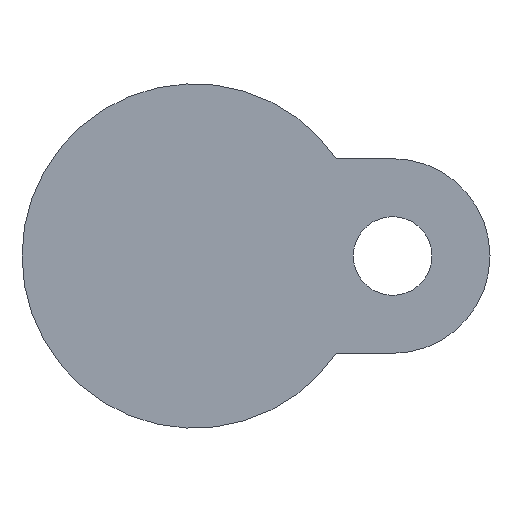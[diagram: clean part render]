
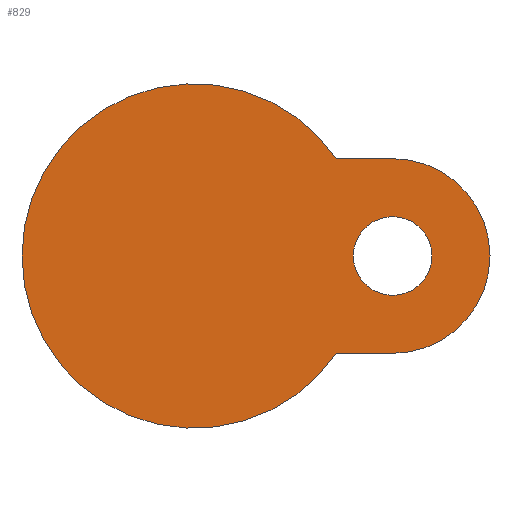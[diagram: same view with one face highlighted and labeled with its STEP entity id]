
A CAD part, front view. The second image highlights one B-rep face of the part: STEP entity #829.
In plain terms, the highlighted planar face has unit normal (0, -1, 0).
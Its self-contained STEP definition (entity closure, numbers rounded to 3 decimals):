
#7 = CARTESIAN_POINT ( 'NONE',  ( 31.75, -16., 0. ) ) ;
#26 = AXIS2_PLACEMENT_3D ( 'NONE', #625, #1206, #989 ) ;
#47 = VERTEX_POINT ( 'NONE', #1169 ) ;
#88 = EDGE_CURVE ( 'NONE', #1264, #47, #885, .T. ) ;
#101 = FACE_OUTER_BOUND ( 'NONE', #1320, .T. ) ;
#127 = VERTEX_POINT ( 'NONE', #970 ) ;
#129 = DIRECTION ( 'NONE',  ( 1., 0., 0. ) ) ;
#149 = CARTESIAN_POINT ( 'NONE',  ( 21.25, -16., 0. ) ) ;
#167 = LINE ( 'NONE', #628, #958 ) ;
#269 = CIRCLE ( 'NONE', #1163, 5.25 ) ;
#282 = ORIENTED_EDGE ( 'NONE', *, *, #355, .T. ) ;
#330 = CIRCLE ( 'NONE', #1209, 23. ) ;
#355 = EDGE_CURVE ( 'NONE', #1204, #792, #269, .T. ) ;
#438 = DIRECTION ( 'NONE',  ( 0., -1., 0. ) ) ;
#447 = CARTESIAN_POINT ( 'NONE',  ( 0., -16., 0. ) ) ;
#462 = CARTESIAN_POINT ( 'NONE',  ( 26.5, -16., 0. ) ) ;
#476 = DIRECTION ( 'NONE',  ( 0., 1., 0. ) ) ;
#477 = CARTESIAN_POINT ( 'NONE',  ( 13.5, -16., -13. ) ) ;
#484 = ORIENTED_EDGE ( 'NONE', *, *, #869, .T. ) ;
#497 = EDGE_LOOP ( 'NONE', ( #282, #1199 ) ) ;
#528 = ORIENTED_EDGE ( 'NONE', *, *, #88, .F. ) ;
#578 = CARTESIAN_POINT ( 'NONE',  ( 18.974, -16., 13. ) ) ;
#625 = CARTESIAN_POINT ( 'NONE',  ( 26.5, -16., 0. ) ) ;
#628 = CARTESIAN_POINT ( 'NONE',  ( 13.5, -16., 13. ) ) ;
#661 = PLANE ( 'NONE',  #1159 ) ;
#679 = CARTESIAN_POINT ( 'NONE',  ( 26.5, -16., 0. ) ) ;
#684 = DIRECTION ( 'NONE',  ( 1., 0., 0. ) ) ;
#687 = AXIS2_PLACEMENT_3D ( 'NONE', #679, #1055, #1308 ) ;
#691 = FACE_BOUND ( 'NONE', #497, .T. ) ;
#792 = VERTEX_POINT ( 'NONE', #7 ) ;
#829 = ADVANCED_FACE ( 'NONE', ( #691, #101 ), #661, .T. ) ;
#833 = ORIENTED_EDGE ( 'NONE', *, *, #991, .F. ) ;
#869 = EDGE_CURVE ( 'NONE', #892, #127, #330, .T. ) ;
#885 = CIRCLE ( 'NONE', #26, 13. ) ;
#892 = VERTEX_POINT ( 'NONE', #578 ) ;
#927 = VECTOR ( 'NONE', #1064, 1000. ) ;
#948 = CIRCLE ( 'NONE', #687, 5.25 ) ;
#958 = VECTOR ( 'NONE', #1323, 1000. ) ;
#970 = CARTESIAN_POINT ( 'NONE',  ( 18.974, -16., -13. ) ) ;
#989 = DIRECTION ( 'NONE',  ( 1., 0., 0. ) ) ;
#991 = EDGE_CURVE ( 'NONE', #892, #1264, #167, .T. ) ;
#1055 = DIRECTION ( 'NONE',  ( 0., 1., 0. ) ) ;
#1064 = DIRECTION ( 'NONE',  ( -1., 0., 0. ) ) ;
#1142 = EDGE_CURVE ( 'NONE', #47, #127, #1268, .T. ) ;
#1153 = CARTESIAN_POINT ( 'NONE',  ( 26.5, -16., 13. ) ) ;
#1154 = ORIENTED_EDGE ( 'NONE', *, *, #1142, .F. ) ;
#1159 = AXIS2_PLACEMENT_3D ( 'NONE', #1474, #1234, #684 ) ;
#1163 = AXIS2_PLACEMENT_3D ( 'NONE', #462, #476, #1267 ) ;
#1169 = CARTESIAN_POINT ( 'NONE',  ( 26.5, -16., -13. ) ) ;
#1199 = ORIENTED_EDGE ( 'NONE', *, *, #1443, .T. ) ;
#1204 = VERTEX_POINT ( 'NONE', #149 ) ;
#1206 = DIRECTION ( 'NONE',  ( 0., 1., 0. ) ) ;
#1209 = AXIS2_PLACEMENT_3D ( 'NONE', #447, #438, #129 ) ;
#1234 = DIRECTION ( 'NONE',  ( 0., -1., 0. ) ) ;
#1264 = VERTEX_POINT ( 'NONE', #1153 ) ;
#1267 = DIRECTION ( 'NONE',  ( -1., 0., 0. ) ) ;
#1268 = LINE ( 'NONE', #477, #927 ) ;
#1308 = DIRECTION ( 'NONE',  ( -1., 0., 0. ) ) ;
#1320 = EDGE_LOOP ( 'NONE', ( #484, #1154, #528, #833 ) ) ;
#1323 = DIRECTION ( 'NONE',  ( 1., 0., 0. ) ) ;
#1443 = EDGE_CURVE ( 'NONE', #792, #1204, #948, .T. ) ;
#1474 = CARTESIAN_POINT ( 'NONE',  ( 23., -16., 0. ) ) ;
